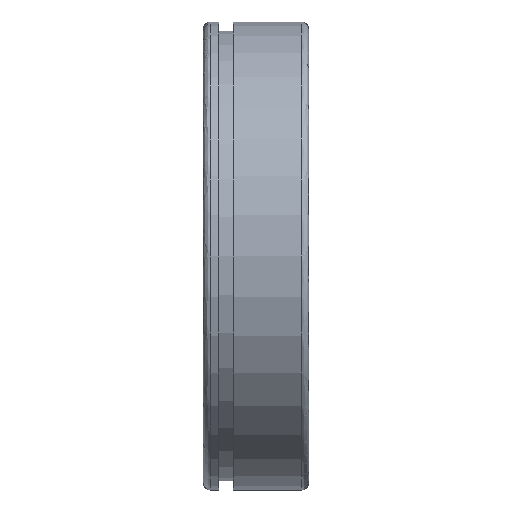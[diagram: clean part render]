
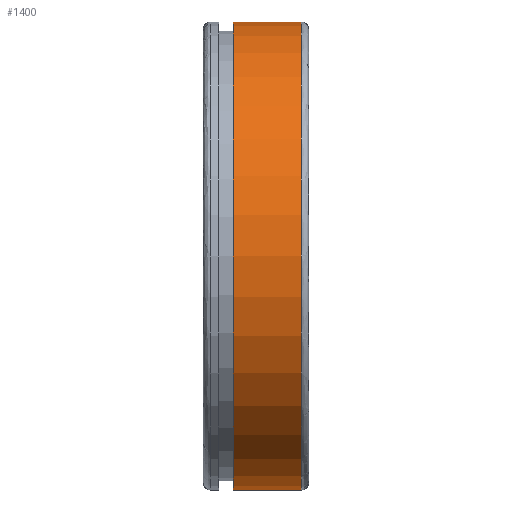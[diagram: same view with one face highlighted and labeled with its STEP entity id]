
A CAD part, front view. The second image highlights one B-rep face of the part: STEP entity #1400.
In plain terms, the highlighted cylindrical face has radius 31 mm (diameter 62 mm), a partial arc.
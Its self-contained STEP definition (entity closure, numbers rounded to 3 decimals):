
#100 = DIRECTION ( 'NONE',  ( 0., 0., 1. ) ) ;
#139 = CARTESIAN_POINT ( 'NONE',  ( 3.96, 0., -31. ) ) ;
#242 = VERTEX_POINT ( 'NONE', #139 ) ;
#266 = EDGE_CURVE ( 'NONE', #3355, #242, #3390, .T. ) ;
#356 = DIRECTION ( 'NONE',  ( 1., 0., 0. ) ) ;
#458 = ORIENTED_EDGE ( 'NONE', *, *, #2734, .T. ) ;
#745 = AXIS2_PLACEMENT_3D ( 'NONE', #3352, #2748, #769 ) ;
#758 = CARTESIAN_POINT ( 'NONE',  ( 13., 0., -31. ) ) ;
#769 = DIRECTION ( 'NONE',  ( 0., 0., 1. ) ) ;
#978 = AXIS2_PLACEMENT_3D ( 'NONE', #3505, #2102, #100 ) ;
#982 = DIRECTION ( 'NONE',  ( -1., 0., 0. ) ) ;
#985 = DIRECTION ( 'NONE',  ( -1., 0., 0. ) ) ;
#996 = CYLINDRICAL_SURFACE ( 'NONE', #978, 31. ) ;
#1400 = ADVANCED_FACE ( 'NONE', ( #2571 ), #996, .T. ) ;
#1476 = VECTOR ( 'NONE', #982, 1000. ) ;
#1495 = DIRECTION ( 'NONE',  ( 0., 0., 1. ) ) ;
#1685 = EDGE_CURVE ( 'NONE', #2753, #2315, #2153, .T. ) ;
#1808 = CARTESIAN_POINT ( 'NONE',  ( 3.96, 0., 0. ) ) ;
#2102 = DIRECTION ( 'NONE',  ( -1., 0., 0. ) ) ;
#2153 = LINE ( 'NONE', #2990, #2384 ) ;
#2252 = ORIENTED_EDGE ( 'NONE', *, *, #3380, .T. ) ;
#2315 = VERTEX_POINT ( 'NONE', #2502 ) ;
#2378 = AXIS2_PLACEMENT_3D ( 'NONE', #1808, #356, #1495 ) ;
#2384 = VECTOR ( 'NONE', #985, 1000. ) ;
#2502 = CARTESIAN_POINT ( 'NONE',  ( 3.96, 0., 31. ) ) ;
#2571 = FACE_OUTER_BOUND ( 'NONE', #3645, .T. ) ;
#2597 = CIRCLE ( 'NONE', #745, 31. ) ;
#2663 = CARTESIAN_POINT ( 'NONE',  ( 13., 0., 31. ) ) ;
#2714 = CARTESIAN_POINT ( 'NONE',  ( 50., 0., -31. ) ) ;
#2734 = EDGE_CURVE ( 'NONE', #2315, #242, #2991, .T. ) ;
#2748 = DIRECTION ( 'NONE',  ( -1., 0., 0. ) ) ;
#2753 = VERTEX_POINT ( 'NONE', #2663 ) ;
#2990 = CARTESIAN_POINT ( 'NONE',  ( 50., 0., 31. ) ) ;
#2991 = CIRCLE ( 'NONE', #2378, 31. ) ;
#3352 = CARTESIAN_POINT ( 'NONE',  ( 13., 0., 0. ) ) ;
#3355 = VERTEX_POINT ( 'NONE', #758 ) ;
#3373 = ORIENTED_EDGE ( 'NONE', *, *, #1685, .T. ) ;
#3380 = EDGE_CURVE ( 'NONE', #3355, #2753, #2597, .T. ) ;
#3390 = LINE ( 'NONE', #2714, #1476 ) ;
#3505 = CARTESIAN_POINT ( 'NONE',  ( 50., 0., 0. ) ) ;
#3631 = ORIENTED_EDGE ( 'NONE', *, *, #266, .F. ) ;
#3645 = EDGE_LOOP ( 'NONE', ( #3631, #2252, #3373, #458 ) ) ;
